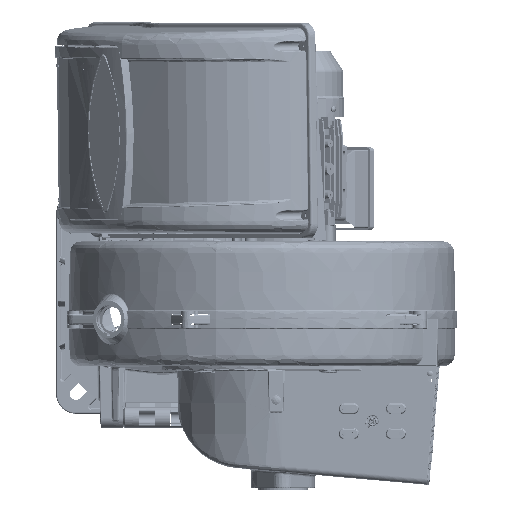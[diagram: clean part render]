
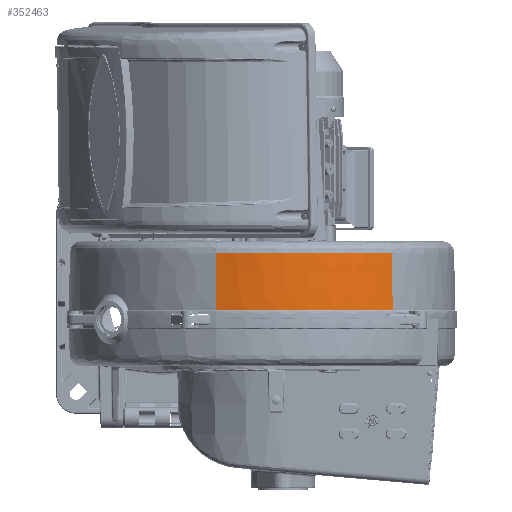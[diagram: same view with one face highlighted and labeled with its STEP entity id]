
A CAD part, left-side view. The second image highlights one B-rep face of the part: STEP entity #352463.
In plain terms, the highlighted free-form (B-spline) face has degree [3, 3] with [11, 4] control points.
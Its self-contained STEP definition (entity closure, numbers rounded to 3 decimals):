
#6935 = VERTEX_POINT ( 'NONE', #133860 ) ;
#8369 = B_SPLINE_CURVE_WITH_KNOTS ( 'NONE', 3,
 ( #376665, #283685, #131002, #12923, #225151, #101793, #162782, #11666, #316847, #48631, #381883 ),
 .UNSPECIFIED., .F., .F.,
 ( 4, 1, 1, 1, 1, 1, 1, 1, 4 ),
 ( 0., 0.125, 0.25, 0.375, 0.5, 0.625, 0.75, 0.875, 1. ),
 .UNSPECIFIED. ) ;
#11666 = CARTESIAN_POINT ( 'NONE',  ( -779.902, 383.491, 42.862 ) ) ;
#12923 = CARTESIAN_POINT ( 'NONE',  ( -806.883, 499.379, 42.862 ) ) ;
#18210 = CARTESIAN_POINT ( 'NONE',  ( -800.253, 548.805, 91.709 ) ) ;
#22095 = CARTESIAN_POINT ( 'NONE',  ( -798.646, 558.658, 42.862 ) ) ;
#27293 = CARTESIAN_POINT ( 'NONE',  ( -764.831, 357.542, 42.862 ) ) ;
#28628 = CARTESIAN_POINT ( 'NONE',  ( -745.679, 334.499, 91.709 ) ) ;
#28889 = CARTESIAN_POINT ( 'NONE',  ( -751.792, 342.346, 116.132 ) ) ;
#34126 = CARTESIAN_POINT ( 'NONE',  ( -797.413, 558.317, 116.132 ) ) ;
#47613 = CARTESIAN_POINT ( 'NONE',  ( -797.824, 558.43, 91.709 ) ) ;
#47931 = EDGE_CURVE ( 'NONE', #389829, #6935, #8369, .T. ) ;
#48631 = CARTESIAN_POINT ( 'NONE',  ( -752.794, 341.55, 42.862 ) ) ;
#50021 = CARTESIAN_POINT ( 'NONE',  ( -800.671, 548.893, 67.285 ) ) ;
#51907 = B_SPLINE_CURVE_WITH_KNOTS ( 'NONE', 3,
 ( #355596, #28889, #305001, #275702, #271798, #303674, #334225, #62049, #270444, #181493, #34126 ),
 .UNSPECIFIED., .F., .F.,
 ( 4, 1, 1, 1, 1, 1, 1, 1, 4 ),
 ( 0., 0.125, 0.25, 0.375, 0.5, 0.625, 0.75, 0.875, 1. ),
 .UNSPECIFIED. ) ;
#55229 = CARTESIAN_POINT ( 'NONE',  ( -790.985, 411.34, 91.709 ) ) ;
#55587 = B_SPLINE_CURVE_WITH_KNOTS ( 'NONE', 3,
 ( #231942, #47613, #390177, #321065 ),
 .UNSPECIFIED., .F., .F.,
 ( 4, 4 ),
 ( 0., 1. ),
 .UNSPECIFIED. ) ;
#57889 = CARTESIAN_POINT ( 'NONE',  ( -805.375, 469.405, 42.862 ) ) ;
#59212 = CARTESIAN_POINT ( 'NONE',  ( -799.903, 439.919, 67.285 ) ) ;
#59812 = ORIENTED_EDGE ( 'NONE', *, *, #47931, .T. ) ;
#62049 = CARTESIAN_POINT ( 'NONE',  ( -805.601, 499.367, 116.132 ) ) ;
#76113 = ORIENTED_EDGE ( 'NONE', *, *, #383718, .T. ) ;
#79198 = CARTESIAN_POINT ( 'NONE',  ( -798.233, 558.553, 67.285 ) ) ;
#84294 = CARTESIAN_POINT ( 'NONE',  ( -746.329, 333.947, 42.862 ) ) ;
#88337 = CARTESIAN_POINT ( 'NONE',  ( -806.028, 499.371, 91.709 ) ) ;
#89622 = CARTESIAN_POINT ( 'NONE',  ( -791.387, 411.195, 67.285 ) ) ;
#89971 = CARTESIAN_POINT ( 'NONE',  ( -798.646, 558.658, 42.862 ) ) ;
#99905 = B_SPLINE_SURFACE_WITH_KNOTS ( 'NONE', 3, 3, ( 
 ( #22095, #79198, #113622, #138927 ),
 ( #231738, #50021, #18210, #230458 ),
 ( #291661, #262318, #111043, #141501 ),
 ( #354037, #116248, #88337, #328687 ),
 ( #57889, #299472, #146746, #150680 ),
 ( #271528, #59212, #327367, #114939 ),
 ( #149393, #89622, #55229, #359268 ),
 ( #239604, #360578, #298150, #296840 ),
 ( #27293, #393712, #302093, #210413 ),
 ( #357979, #120202, #117528, #267566 ),
 ( #177274, #389794, #28628, #207739 ) ),
 .UNSPECIFIED., .F., .F., .F.,
 ( 4, 1, 1, 1, 1, 1, 1, 1, 4 ),
 ( 4, 4 ),
 ( 0., 29.865, 59.729, 89.594, 119.459, 149.323, 179.188, 209.053, 238.917 ),
 ( 0., 73.282 ),
 .UNSPECIFIED. ) ;
#101793 = CARTESIAN_POINT ( 'NONE',  ( -800.32, 439.822, 42.862 ) ) ;
#111043 = CARTESIAN_POINT ( 'NONE',  ( -803.976, 529.207, 91.709 ) ) ;
#113525 = EDGE_LOOP ( 'NONE', ( #167197, #147883, #76113, #59812 ) ) ;
#113622 = CARTESIAN_POINT ( 'NONE',  ( -797.82, 558.449, 91.709 ) ) ;
#114939 = CARTESIAN_POINT ( 'NONE',  ( -799.071, 440.113, 116.132 ) ) ;
#116248 = CARTESIAN_POINT ( 'NONE',  ( -806.456, 499.375, 67.285 ) ) ;
#117528 = CARTESIAN_POINT ( 'NONE',  ( -752.122, 342.076, 91.709 ) ) ;
#120202 = CARTESIAN_POINT ( 'NONE',  ( -752.458, 341.813, 67.285 ) ) ;
#131002 = CARTESIAN_POINT ( 'NONE',  ( -804.824, 529.316, 42.862 ) ) ;
#133860 = CARTESIAN_POINT ( 'NONE',  ( -746.329, 333.947, 42.862 ) ) ;
#138927 = CARTESIAN_POINT ( 'NONE',  ( -797.406, 558.345, 116.132 ) ) ;
#140116 = CARTESIAN_POINT ( 'NONE',  ( -745.685, 334.505, 91.709 ) ) ;
#141501 = CARTESIAN_POINT ( 'NONE',  ( -803.552, 529.152, 116.132 ) ) ;
#146746 = CARTESIAN_POINT ( 'NONE',  ( -804.526, 469.498, 91.709 ) ) ;
#147883 = ORIENTED_EDGE ( 'NONE', *, *, #290478, .T. ) ;
#148856 = CARTESIAN_POINT ( 'NONE',  ( -797.413, 558.317, 116.132 ) ) ;
#149393 = CARTESIAN_POINT ( 'NONE',  ( -791.789, 411.049, 42.862 ) ) ;
#150680 = CARTESIAN_POINT ( 'NONE',  ( -804.101, 469.545, 116.132 ) ) ;
#162782 = CARTESIAN_POINT ( 'NONE',  ( -791.789, 411.049, 42.862 ) ) ;
#167197 = ORIENTED_EDGE ( 'NONE', *, *, #173511, .F. ) ;
#173511 = EDGE_CURVE ( 'NONE', #187684, #6935, #233245, .T. ) ;
#177274 = CARTESIAN_POINT ( 'NONE',  ( -746.329, 333.947, 42.862 ) ) ;
#181493 = CARTESIAN_POINT ( 'NONE',  ( -799.839, 548.698, 116.132 ) ) ;
#187684 = VERTEX_POINT ( 'NONE', #381675 ) ;
#207739 = CARTESIAN_POINT ( 'NONE',  ( -745.355, 334.775, 116.132 ) ) ;
#210413 = CARTESIAN_POINT ( 'NONE',  ( -763.763, 358.251, 116.132 ) ) ;
#225151 = CARTESIAN_POINT ( 'NONE',  ( -805.375, 469.405, 42.862 ) ) ;
#230458 = CARTESIAN_POINT ( 'NONE',  ( -799.836, 548.717, 116.132 ) ) ;
#231738 = CARTESIAN_POINT ( 'NONE',  ( -801.088, 548.981, 42.862 ) ) ;
#231942 = CARTESIAN_POINT ( 'NONE',  ( -797.413, 558.317, 116.132 ) ) ;
#233245 = B_SPLINE_CURVE_WITH_KNOTS ( 'NONE', 3,
 ( #388361, #140116, #385787, #84294 ),
 .UNSPECIFIED., .F., .F.,
 ( 4, 4 ),
 ( 0., 1. ),
 .UNSPECIFIED. ) ;
#239604 = CARTESIAN_POINT ( 'NONE',  ( -779.902, 383.491, 42.862 ) ) ;
#262318 = CARTESIAN_POINT ( 'NONE',  ( -804.4, 529.262, 67.285 ) ) ;
#267566 = CARTESIAN_POINT ( 'NONE',  ( -751.787, 342.34, 116.132 ) ) ;
#270444 = CARTESIAN_POINT ( 'NONE',  ( -803.553, 529.143, 116.132 ) ) ;
#271528 = CARTESIAN_POINT ( 'NONE',  ( -800.32, 439.822, 42.862 ) ) ;
#271798 = CARTESIAN_POINT ( 'NONE',  ( -790.583, 411.486, 116.132 ) ) ;
#275702 = CARTESIAN_POINT ( 'NONE',  ( -778.757, 384.068, 116.132 ) ) ;
#282458 = FACE_OUTER_BOUND ( 'NONE', #113525, .T. ) ;
#283685 = CARTESIAN_POINT ( 'NONE',  ( -801.088, 548.981, 42.862 ) ) ;
#290478 = EDGE_CURVE ( 'NONE', #187684, #305572, #51907, .T. ) ;
#291661 = CARTESIAN_POINT ( 'NONE',  ( -804.824, 529.316, 42.862 ) ) ;
#296840 = CARTESIAN_POINT ( 'NONE',  ( -778.757, 384.068, 116.132 ) ) ;
#298150 = CARTESIAN_POINT ( 'NONE',  ( -779.139, 383.876, 91.709 ) ) ;
#299472 = CARTESIAN_POINT ( 'NONE',  ( -804.95, 469.451, 67.285 ) ) ;
#302093 = CARTESIAN_POINT ( 'NONE',  ( -764.119, 358.015, 91.709 ) ) ;
#303674 = CARTESIAN_POINT ( 'NONE',  ( -799.071, 440.113, 116.132 ) ) ;
#305001 = CARTESIAN_POINT ( 'NONE',  ( -763.765, 358.255, 116.132 ) ) ;
#305572 = VERTEX_POINT ( 'NONE', #148856 ) ;
#316847 = CARTESIAN_POINT ( 'NONE',  ( -764.831, 357.542, 42.862 ) ) ;
#321065 = CARTESIAN_POINT ( 'NONE',  ( -798.646, 558.658, 42.862 ) ) ;
#327367 = CARTESIAN_POINT ( 'NONE',  ( -799.487, 440.016, 91.709 ) ) ;
#328687 = CARTESIAN_POINT ( 'NONE',  ( -805.601, 499.367, 116.132 ) ) ;
#334225 = CARTESIAN_POINT ( 'NONE',  ( -804.101, 469.545, 116.132 ) ) ;
#352463 = ADVANCED_FACE ( 'NONE', ( #282458 ), #99905, .T. ) ;
#354037 = CARTESIAN_POINT ( 'NONE',  ( -806.883, 499.379, 42.862 ) ) ;
#355596 = CARTESIAN_POINT ( 'NONE',  ( -745.363, 334.785, 116.132 ) ) ;
#357979 = CARTESIAN_POINT ( 'NONE',  ( -752.794, 341.55, 42.862 ) ) ;
#359268 = CARTESIAN_POINT ( 'NONE',  ( -790.583, 411.486, 116.132 ) ) ;
#360578 = CARTESIAN_POINT ( 'NONE',  ( -779.52, 383.683, 67.285 ) ) ;
#376665 = CARTESIAN_POINT ( 'NONE',  ( -798.646, 558.658, 42.862 ) ) ;
#381675 = CARTESIAN_POINT ( 'NONE',  ( -745.363, 334.785, 116.132 ) ) ;
#381883 = CARTESIAN_POINT ( 'NONE',  ( -746.329, 333.947, 42.862 ) ) ;
#383718 = EDGE_CURVE ( 'NONE', #305572, #389829, #55587, .T. ) ;
#385787 = CARTESIAN_POINT ( 'NONE',  ( -746.007, 334.226, 67.285 ) ) ;
#388361 = CARTESIAN_POINT ( 'NONE',  ( -745.363, 334.785, 116.132 ) ) ;
#389794 = CARTESIAN_POINT ( 'NONE',  ( -746.004, 334.223, 67.285 ) ) ;
#389829 = VERTEX_POINT ( 'NONE', #89971 ) ;
#390177 = CARTESIAN_POINT ( 'NONE',  ( -798.235, 558.544, 67.285 ) ) ;
#393712 = CARTESIAN_POINT ( 'NONE',  ( -764.475, 357.778, 67.285 ) ) ;
